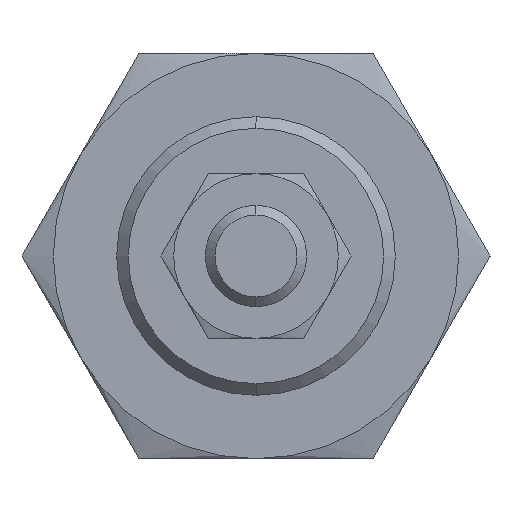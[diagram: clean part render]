
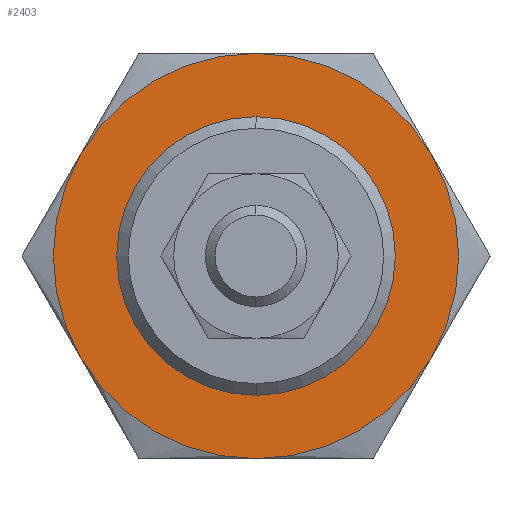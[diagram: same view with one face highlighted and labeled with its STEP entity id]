
A CAD part, left-side view. The second image highlights one B-rep face of the part: STEP entity #2403.
In plain terms, the highlighted planar face has unit normal (-1, 0, 0).
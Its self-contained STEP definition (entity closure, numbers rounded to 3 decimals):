
#167 = CARTESIAN_POINT ( 'NONE',  ( -16.5, 0., 0. ) ) ;
#202 = CARTESIAN_POINT ( 'NONE',  ( -16.5, 0., -16. ) ) ;
#267 = DIRECTION ( 'NONE',  ( 0., 0., 1. ) ) ;
#291 = CARTESIAN_POINT ( 'NONE',  ( -16.5, 0., 16. ) ) ;
#316 = EDGE_LOOP ( 'NONE', ( #803, #468 ) ) ;
#350 = DIRECTION ( 'NONE',  ( 1., 0., 0. ) ) ;
#468 = ORIENTED_EDGE ( 'NONE', *, *, #1587, .T. ) ;
#553 = DIRECTION ( 'NONE',  ( 1., 0., 0. ) ) ;
#600 = AXIS2_PLACEMENT_3D ( 'NONE', #167, #553, #1235 ) ;
#661 = DIRECTION ( 'NONE',  ( 1., 0., 0. ) ) ;
#761 = DIRECTION ( 'NONE',  ( 0., 0., -1. ) ) ;
#803 = ORIENTED_EDGE ( 'NONE', *, *, #2681, .T. ) ;
#830 = DIRECTION ( 'NONE',  ( 0., 0., -1. ) ) ;
#843 = DIRECTION ( 'NONE',  ( -1., 0., 0. ) ) ;
#844 = CARTESIAN_POINT ( 'NONE',  ( -16.5, 13.856, 8. ) ) ;
#861 = DIRECTION ( 'NONE',  ( 0., 0., -1. ) ) ;
#889 = ORIENTED_EDGE ( 'NONE', *, *, #2145, .F. ) ;
#901 = FACE_BOUND ( 'NONE', #316, .T. ) ;
#1051 = VERTEX_POINT ( 'NONE', #202 ) ;
#1070 = CIRCLE ( 'NONE', #4224, 16. ) ;
#1096 = CARTESIAN_POINT ( 'NONE',  ( -16.5, 0., 0. ) ) ;
#1208 = CIRCLE ( 'NONE', #3602, 16. ) ;
#1235 = DIRECTION ( 'NONE',  ( 0., 0., -1. ) ) ;
#1322 = DIRECTION ( 'NONE',  ( 0., 0., -1. ) ) ;
#1387 = VERTEX_POINT ( 'NONE', #3571 ) ;
#1464 = ORIENTED_EDGE ( 'NONE', *, *, #2615, .F. ) ;
#1493 = AXIS2_PLACEMENT_3D ( 'NONE', #3836, #2479, #830 ) ;
#1532 = CARTESIAN_POINT ( 'NONE',  ( -16.5, 13.856, -8. ) ) ;
#1550 = CIRCLE ( 'NONE', #2790, 16. ) ;
#1587 = EDGE_CURVE ( 'NONE', #1387, #3133, #4217, .T. ) ;
#1621 = CIRCLE ( 'NONE', #3887, 11. ) ;
#1839 = EDGE_CURVE ( 'NONE', #3590, #3290, #1070, .T. ) ;
#1965 = CIRCLE ( 'NONE', #600, 16. ) ;
#2145 = EDGE_CURVE ( 'NONE', #3875, #3590, #3882, .T. ) ;
#2161 = ORIENTED_EDGE ( 'NONE', *, *, #3511, .F. ) ;
#2170 = CARTESIAN_POINT ( 'NONE',  ( -16.5, 0., 0. ) ) ;
#2238 = CIRCLE ( 'NONE', #3828, 16. ) ;
#2248 = CARTESIAN_POINT ( 'NONE',  ( -16.5, 0., 11. ) ) ;
#2282 = DIRECTION ( 'NONE',  ( 1., 0., 0. ) ) ;
#2377 = DIRECTION ( 'NONE',  ( 1., 0., 0. ) ) ;
#2399 = DIRECTION ( 'NONE',  ( 0., 0., -1. ) ) ;
#2403 = ADVANCED_FACE ( 'NONE', ( #4190, #901 ), #4152, .T. ) ;
#2416 = EDGE_CURVE ( 'NONE', #3290, #3763, #1550, .T. ) ;
#2438 = AXIS2_PLACEMENT_3D ( 'NONE', #3282, #350, #761 ) ;
#2479 = DIRECTION ( 'NONE',  ( 1., 0., 0. ) ) ;
#2494 = CARTESIAN_POINT ( 'NONE',  ( -16.5, 0., 0. ) ) ;
#2566 = DIRECTION ( 'NONE',  ( 0., 0., -1. ) ) ;
#2615 = EDGE_CURVE ( 'NONE', #1051, #3864, #1208, .T. ) ;
#2681 = EDGE_CURVE ( 'NONE', #3133, #1387, #1621, .T. ) ;
#2790 = AXIS2_PLACEMENT_3D ( 'NONE', #2494, #3807, #861 ) ;
#2834 = DIRECTION ( 'NONE',  ( 1., 0., 0. ) ) ;
#2909 = EDGE_CURVE ( 'NONE', #3864, #3875, #2238, .T. ) ;
#2917 = EDGE_LOOP ( 'NONE', ( #3079, #1464, #2161, #3500, #4105, #889 ) ) ;
#3079 = ORIENTED_EDGE ( 'NONE', *, *, #2909, .F. ) ;
#3117 = DIRECTION ( 'NONE',  ( 0., 0., -1. ) ) ;
#3133 = VERTEX_POINT ( 'NONE', #2248 ) ;
#3180 = CARTESIAN_POINT ( 'NONE',  ( -16.5, 16., 0. ) ) ;
#3282 = CARTESIAN_POINT ( 'NONE',  ( -16.5, 0., 0. ) ) ;
#3290 = VERTEX_POINT ( 'NONE', #3342 ) ;
#3342 = CARTESIAN_POINT ( 'NONE',  ( -16.5, -13.856, 8. ) ) ;
#3500 = ORIENTED_EDGE ( 'NONE', *, *, #2416, .F. ) ;
#3511 = EDGE_CURVE ( 'NONE', #3763, #1051, #1965, .T. ) ;
#3571 = CARTESIAN_POINT ( 'NONE',  ( -16.5, 0., -11. ) ) ;
#3590 = VERTEX_POINT ( 'NONE', #291 ) ;
#3594 = CARTESIAN_POINT ( 'NONE',  ( -16.5, 0., 0. ) ) ;
#3602 = AXIS2_PLACEMENT_3D ( 'NONE', #1096, #2377, #2399 ) ;
#3627 = CARTESIAN_POINT ( 'NONE',  ( -16.5, -13.856, -8. ) ) ;
#3763 = VERTEX_POINT ( 'NONE', #3627 ) ;
#3807 = DIRECTION ( 'NONE',  ( 1., 0., 0. ) ) ;
#3823 = AXIS2_PLACEMENT_3D ( 'NONE', #3180, #843, #267 ) ;
#3828 = AXIS2_PLACEMENT_3D ( 'NONE', #4036, #661, #1322 ) ;
#3836 = CARTESIAN_POINT ( 'NONE',  ( -16.5, 0., 0. ) ) ;
#3864 = VERTEX_POINT ( 'NONE', #1532 ) ;
#3875 = VERTEX_POINT ( 'NONE', #844 ) ;
#3882 = CIRCLE ( 'NONE', #2438, 16. ) ;
#3887 = AXIS2_PLACEMENT_3D ( 'NONE', #2170, #2834, #3117 ) ;
#4036 = CARTESIAN_POINT ( 'NONE',  ( -16.5, 0., 0. ) ) ;
#4105 = ORIENTED_EDGE ( 'NONE', *, *, #1839, .F. ) ;
#4152 = PLANE ( 'NONE',  #3823 ) ;
#4190 = FACE_OUTER_BOUND ( 'NONE', #2917, .T. ) ;
#4217 = CIRCLE ( 'NONE', #1493, 11. ) ;
#4224 = AXIS2_PLACEMENT_3D ( 'NONE', #3594, #2282, #2566 ) ;
